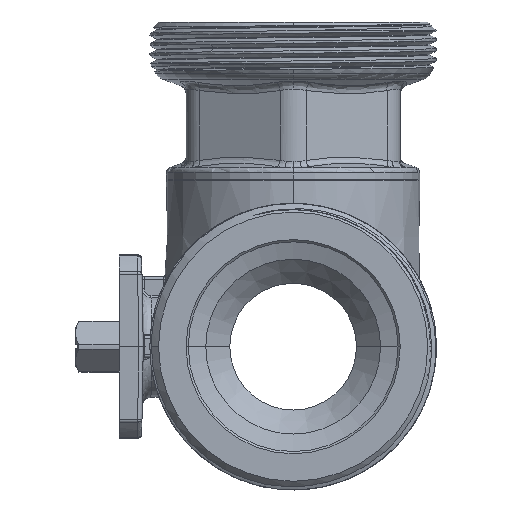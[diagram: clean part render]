
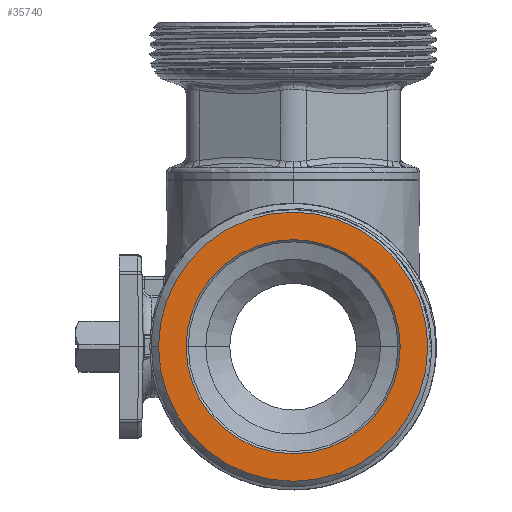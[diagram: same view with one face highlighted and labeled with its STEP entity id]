
A CAD part, left-side view. The second image highlights one B-rep face of the part: STEP entity #35740.
In plain terms, the highlighted planar face has unit normal (-1, 0, 0).
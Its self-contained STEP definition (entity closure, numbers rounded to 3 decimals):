
#9372=CARTESIAN_POINT('',(-63.7,0.,0.));
#9373=DIRECTION('',(1.,0.,0.));
#9374=DIRECTION('',(0.,1.,0.));
#9375=AXIS2_PLACEMENT_3D('',#9372,#9373,#9374);
#9560=CARTESIAN_POINT('',(-63.7,0.,0.));
#9561=DIRECTION('',(-1.,0.,0.));
#9562=DIRECTION('',(0.,1.,0.));
#9563=AXIS2_PLACEMENT_3D('',#9560,#9561,#9562);
#9565=CARTESIAN_POINT('',(-63.7,0.,0.));
#9566=DIRECTION('',(-1.,0.,0.));
#9567=DIRECTION('',(0.,1.,0.));
#9568=AXIS2_PLACEMENT_3D('',#9565,#9566,#9567);
#9570=CARTESIAN_POINT('',(-63.7,0.,0.));
#9571=DIRECTION('',(1.,0.,0.));
#9572=DIRECTION('',(0.,1.,0.));
#9573=AXIS2_PLACEMENT_3D('',#9570,#9571,#9572);
#22736=CARTESIAN_POINT('',(-63.7,30.8,0.));
#22737=CARTESIAN_POINT('',(-63.7,-30.8,0.));
#22738=VERTEX_POINT('',#22736);
#22739=VERTEX_POINT('',#22737);
#22740=CARTESIAN_POINT('',(-63.7,24.5,0.));
#22741=VERTEX_POINT('',#22740);
#22742=CARTESIAN_POINT('',(-63.7,-24.5,0.));
#22743=VERTEX_POINT('',#22742);
#35725=CARTESIAN_POINT('',(-63.7,0.,0.));
#35726=DIRECTION('',(-1.,0.,0.));
#35727=DIRECTION('',(0.,1.,0.));
#35728=AXIS2_PLACEMENT_3D('',#35725,#35726,#35727);
#35729=PLANE('',#35728);
#35730=ORIENTED_EDGE('',*,*,#35405,.T.);
#35731=ORIENTED_EDGE('',*,*,#35719,.F.);
#35732=EDGE_LOOP('',(#35730,#35731));
#35733=FACE_OUTER_BOUND('',#35732,.F.);
#35735=ORIENTED_EDGE('',*,*,#35734,.T.);
#35737=ORIENTED_EDGE('',*,*,#35736,.F.);
#35738=EDGE_LOOP('',(#35735,#35737));
#35739=FACE_BOUND('',#35738,.F.);
#9376=CIRCLE('',#9375,30.8);
#9564=CIRCLE('',#9563,30.8);
#9569=CIRCLE('',#9568,24.5);
#9574=CIRCLE('',#9573,24.5);
#35405=EDGE_CURVE('',#22738,#22739,#9376,.T.);
#35719=EDGE_CURVE('',#22738,#22739,#9564,.T.);
#35734=EDGE_CURVE('',#22741,#22743,#9569,.T.);
#35736=EDGE_CURVE('',#22741,#22743,#9574,.T.);
#35740=ADVANCED_FACE('',(#35733,#35739),#35729,.T.);
